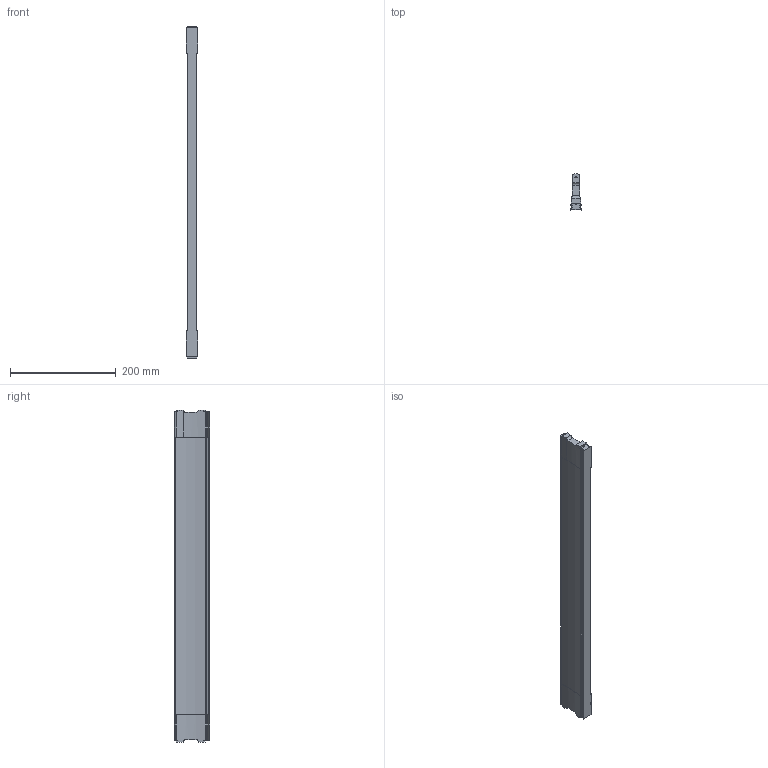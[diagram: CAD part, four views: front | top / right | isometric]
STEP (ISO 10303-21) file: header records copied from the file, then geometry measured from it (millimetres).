
FILE_DESCRIPTION (( 'STEP AP214' ), '1' );
FILE_NAME ('Traverse DWD XP NL650 Mass X618,4.step', '2010-09-21T13:16:45', ( 'grass' ), ( '' ), 'SwSTEP 2.0', 'SolidWorks 2010', '' );
FILE_SCHEMA (( 'AUTOMOTIVE_DESIGN' ));
Length unit declared in the file: millimetre
Products named in the file (1): Traverse DWD XP NL650 Mass X618,4
Bounding box: 21.4 x 67.5 x 627.4 mm (x, y, z)
Volume: 520893.3 mm3; surface area: 108891.5 mm2
Topology: 1 solids, 1 shells, 125 faces, 369 edges, 246 vertices
Faces by surface type: cylinder 68, plane 57
Entity records: 4377 total; most frequent: CARTESIAN_POINT 879, DIRECTION 753, ORIENTED_EDGE 738, EDGE_CURVE 369, AXIS2_PLACEMENT_3D 268, VERTEX_POINT 246, VECTOR 217, LINE 217
